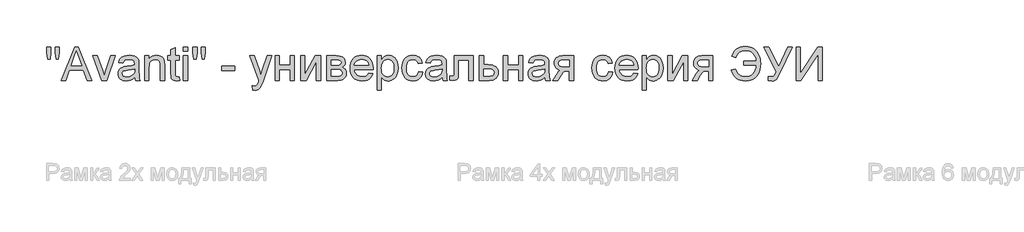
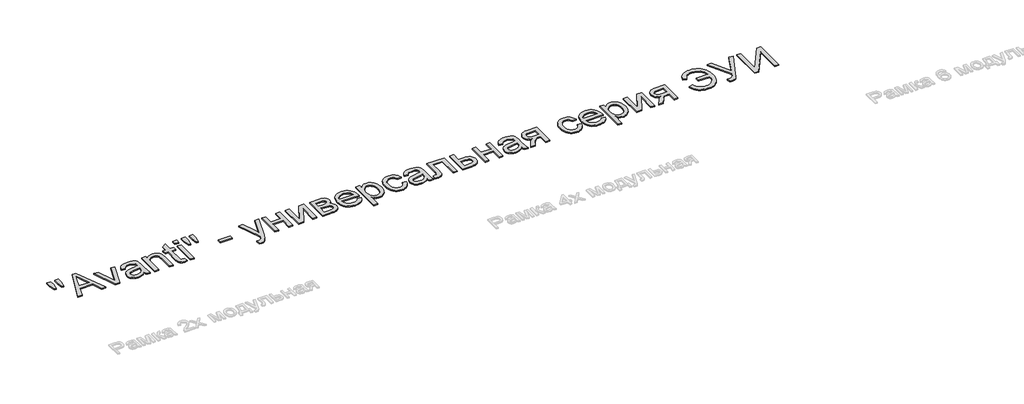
# One storey, part 118 of 168: 1 proxy.
"""IFC4 building model written with IfcOpenShell, lengths in millimetres."""

from ifc_helpers import new_model, si_unit, origin, origin_with_axes, place, context, project, spatial, polyline, outline, extrude, element, save

model = new_model("IFC4")

# Units and contexts
model_context = context("Model", 3, world=origin())
ifc_project = project(units=[si_unit("LENGTHUNIT", "METRE", prefix="MILLI")], contexts=[model_context])

# Site, building, storey
site = spatial("IfcSite", under=ifc_project)
building = spatial("IfcBuilding", under=site)
storey = spatial("IfcBuildingStorey", under=building, Name="Этаж 01", Elevation=0.0)

# Proxy
placement = place(None, origin())
element("IfcBuildingElementProxy", 1, Name="600 мм Arial", ObjectType="600 мм Arial", at=placement, inside=storey, context=model_context, shape_type="SweptSolid", body=[
    extrude(outline(polyline([(32922.197491, -2862.2767394), (32903.8033912, -2745.8788762), (32903.8033912, -2645.6678207), (32979.1456238, -2645.6678207), (32979.1456238, -2745.8788762), (32962.6645104, -2862.2767394), (32922.197491, -2862.2767394)])), origin_with_axes(), (0.0, 0.0, 1.0), 20.0),
    extrude(outline(polyline([(33072.4404978, -2862.2767394), (33054.4878564, -2745.8788762), (33054.4878564, -2645.6678207), (33129.830089, -2645.6678207), (33129.830089, -2745.8788762), (33112.1717533, -2862.2767394), (33072.4404978, -2862.2767394)])), origin_with_axes(), (0.0, 0.0, 1.0), 20.0),
    extrude(outline(polyline([(33163.2337742, -3248.4056816), (33403.828599, -2645.6678207), (33467.987219, -2645.6678207), (33708.5820438, -3248.4056816), (33628.9723801, -3248.4056816), (33559.9577178, -3060.0501), (33311.7109474, -3060.0501), (33242.843438, -3248.4056816), (33163.2337742, -3248.4056816)]), holes=[polyline([(33339.3756735, -2984.7078674), (33532.4401446, -2984.7078674), (33478.1407621, -2836.5249998), (33435.907909, -2721.0100533), (33398.3839455, -2823.5755535), (33339.3756735, -2984.7078674)])]), origin_with_axes(), (0.0, 0.0, 1.0), 20.0),
    extrude(outline(polyline([(33888.2556103, -3248.4056816), (33732.5679499, -2805.770065), (33812.3247665, -2805.770065), (33906.64971, -3070.9394071), (33935.0502001, -3160.1140027), (33962.8620789, -3075.9426022), (34057.7756337, -2805.770065), (34137.5324502, -2805.770065), (33983.7577762, -3248.4056816), (33888.2556103, -3248.4056816)])), origin_with_axes(), (0.0, 0.0, 1.0), 20.0),
    extrude(outline(polyline([(34485.9902761, -3191.8990071), (34449.9930228, -3222.7643065), (34412.9289118, -3242.961028), (34373.9518144, -3254.1078525), (34332.2156021, -3257.8234606), (34298.6693626, -3255.5885775), (34269.2525986, -3248.8839282), (34243.96531, -3237.7095126), (34222.8074967, -3222.0653307), (34206.1010556, -3202.944664), (34194.1678834, -3181.3407938), (34187.00798, -3157.2537202), (34184.6213456, -3130.6834431), (34188.2265892, -3099.4502617), (34199.0423198, -3071.0865599), (34215.7257683, -3046.8063482), (34236.9341653, -3027.8236373), (34261.8581705, -3013.4762394), (34289.6884434, -3003.1019672), (34354.877133, -2991.7712017), (34431.9116228, -2979.8518251), (34485.5488177, -2965.8723093), (34485.9902761, -2949.0968903), (34480.8031399, -2915.4724759), (34474.3192198, -2903.0196704), (34465.2417315, -2893.4731326), (34449.5515644, -2883.9449889), (34430.4400948, -2877.139172), (34381.9532478, -2871.6945185), (34337.0716444, -2875.3181562), (34305.7280984, -2886.1890691), (34284.3541545, -2906.2938202), (34269.3813573, -2937.618972), (34194.0391247, -2928.201193), (34207.1173296, -2886.9984095), (34226.6334695, -2854.6247939), (34254.4085601, -2829.8663357), (34292.2636174, -2811.5090241), (34338.5615665, -2800.1414704), (34391.6653325, -2796.3522859), (34442.5985947, -2799.7000121), (34482.9736437, -2809.7431905), (34513.4158788, -2824.8447464), (34534.5506994, -2843.3676049), (34548.5670034, -2866.2682591), (34557.6536887, -2894.5032022), (34561.3325087, -2960.4276557), (34561.3325087, -3054.1639881), (34565.1584814, -3185.056402), (34570.8238641, -3217.4116235), (34580.1680668, -3248.4056816), (34504.8258342, -3248.4056816), (34492.7593048, -3222.2124835), (34485.9902761, -3191.8990071)]), holes=[polyline([(34485.9902761, -3041.2145419), (34435.3697135, -3053.7593179), (34364.4420648, -3064.3175312), (34299.6212573, -3076.5312134), (34282.7538678, -3084.8821347), (34270.2642741, -3096.3968412), (34262.5387522, -3110.192416), (34259.9635782, -3125.3859424), (34265.5737786, -3147.7899559), (34282.4043799, -3166.1472674), (34310.0875001, -3178.3977379), (34348.2552571, -3182.481228), (34388.7222765, -3177.9746736), (34424.4804065, -3164.4550103), (34453.4695077, -3144.5342002), (34473.629441, -3120.8242056), (34482.5689735, -3096.3968412), (34485.5488177, -3062.5516976), (34485.9902761, -3041.2145419)])]), origin_with_axes(), (0.0, 0.0, 1.0), 20.0),
    extrude(outline(polyline([(34664.9280785, -3248.4056816), (34664.9280785, -2805.770065), (34740.2703111, -2805.770065), (34740.2703111, -2867.5742402), (34766.4451151, -2836.4146352), (34797.8806316, -2814.1577745), (34834.5768606, -2800.803658), (34876.5338021, -2796.3522859), (34913.6714895, -2799.9391353), (34947.68218, -2810.6996837), (34976.0458818, -2827.2911617), (34996.2426034, -2848.3708), (35009.9462077, -2873.8834164), (35018.8305579, -2903.7738285), (35022.8036834, -2976.6144635), (35022.8036834, -3248.4056816), (34947.4614508, -3248.4056816), (34947.4614508, -2986.7680066), (34945.290947, -2947.8093033), (34938.7794357, -2920.1077891), (34926.7680886, -2900.2605554), (34908.0980773, -2884.8646939), (34884.1673535, -2874.9870624), (34856.3738688, -2871.6945185), (34833.4962072, -2873.5431255), (34812.2464235, -2879.0889466), (34792.6245176, -2888.3319817), (34774.6304895, -2901.2722309), (34759.5979114, -2919.3812221), (34748.8603557, -2944.1304834), (34742.4178223, -2975.5200146), (34740.2703111, -3013.5498158), (34740.2703111, -3248.4056816), (34664.9280785, -3248.4056816)])), origin_with_axes(), (0.0, 0.0, 1.0), 20.0),
    extrude(outline(polyline([(35286.5014976, -3185.5714368), (35295.9192766, -3250.6129735), (35239.559755, -3257.8234606), (35203.3969548, -3254.6964637), (35176.4312046, -3245.3154728), (35157.3749173, -3230.8577104), (35144.9405058, -3212.5003988), (35138.0979007, -3180.9729119), (35135.8170323, -3127.0046232), (35135.8170323, -2881.1122976), (35079.3103579, -2881.1122976), (35079.3103579, -2805.770065), (35135.8170323, -2805.770065), (35135.8170323, -2698.2013696), (35211.1592649, -2653.9083774), (35211.1592649, -2805.770065), (35286.5014976, -2805.770065), (35286.5014976, -2881.1122976), (35211.1592649, -2881.1122976), (35211.1592649, -3124.7973312), (35215.1323905, -3163.6456699), (35228.0082603, -3177.4044565), (35238.8791733, -3181.2120352), (35253.6864236, -3182.481228), (35286.5014976, -3185.5714368)])), origin_with_axes(), (0.0, 0.0, 1.0), 20.0),
    extrude(outline(polyline([(35361.8437302, -2721.0100533), (35361.8437302, -2645.6678207), (35437.1859628, -2645.6678207), (35437.1859628, -2721.0100533), (35361.8437302, -2721.0100533)])), origin_with_axes(), (0.0, 0.0, 1.0), 20.0),
    extrude(outline(polyline([(35361.8437302, -3248.4056816), (35361.8437302, -2805.770065), (35437.1859628, -2805.770065), (35437.1859628, -3248.4056816), (35361.8437302, -3248.4056816)])), origin_with_axes(), (0.0, 0.0, 1.0), 20.0),
    extrude(outline(polyline([(35549.7578533, -2862.2767394), (35531.3637535, -2745.8788762), (35531.3637535, -2645.6678207), (35606.7059862, -2645.6678207), (35606.7059862, -2745.8788762), (35590.2248728, -2862.2767394), (35549.7578533, -2862.2767394)])), origin_with_axes(), (0.0, 0.0, 1.0), 20.0),
    extrude(outline(polyline([(35700.0008601, -2862.2767394), (35682.0482188, -2745.8788762), (35682.0482188, -2645.6678207), (35757.3904514, -2645.6678207), (35757.3904514, -2745.8788762), (35739.7321156, -2862.2767394), (35700.0008601, -2862.2767394)])), origin_with_axes(), (0.0, 0.0, 1.0), 20.0),
    extrude(outline(polyline([(36049.3416028, -3069.4678791), (36049.3416028, -2994.1256465), (36284.7860797, -2994.1256465), (36284.7860797, -3069.4678791), (36049.3416028, -3069.4678791)])), origin_with_axes(), (0.0, 0.0, 1.0), 20.0),
    extrude(outline(polyline([(36604.9905683, -3417.9257049), (36595.5727892, -3345.3793755), (36633.8325167, -3352.0012514), (36653.9556618, -3349.9227181), (36669.5906466, -3343.6871183), (36681.7675407, -3333.7359104), (36691.5164135, -3320.5105526), (36712.1178053, -3265.0339478), (36718.0039172, -3246.7870008), (36557.9016729, -2805.770065), (36637.3641838, -2805.770065), (36722.2713483, -3051.5152378), (36751.8490607, -3149.8133069), (36781.4267732, -3062.993156), (36868.6883824, -2805.770065), (36947.5622822, -2805.770065), (36793.4933026, -3259.000683), (36753.4677415, -3357.2987521), (36732.9767144, -3388.6790863), (36709.7633605, -3410.4209122), (36682.7976103, -3423.1128411), (36651.0493941, -3427.343484), (36629.2339918, -3424.9890393), (36604.9905683, -3417.9257049)])), origin_with_axes(), (0.0, 0.0, 1.0), 20.0),
    extrude(outline(polyline([(37009.9550686, -2805.770065), (37085.2973012, -2805.770065), (37085.2973012, -2975.2900883), (37283.0706618, -2975.2900883), (37283.0706618, -2805.770065), (37358.4128944, -2805.770065), (37358.4128944, -3248.4056816), (37283.0706618, -3248.4056816), (37283.0706618, -3050.632321), (37085.2973012, -3050.632321), (37085.2973012, -3248.4056816), (37009.9550686, -3248.4056816), (37009.9550686, -2805.770065)])), origin_with_axes(), (0.0, 0.0, 1.0), 20.0),
    extrude(outline(polyline([(37471.4262433, -2805.770065), (37546.7684759, -2805.770065), (37546.7684759, -3143.3385837), (37731.8866959, -2805.770065), (37829.3018482, -2805.770065), (37829.3018482, -3248.4056816), (37753.9596156, -3248.4056816), (37753.9596156, -2912.897302), (37570.018618, -3248.4056816), (37471.4262433, -3248.4056816), (37471.4262433, -2805.770065)])), origin_with_axes(), (0.0, 0.0, 1.0), 20.0),
    extrude(outline(polyline([(37942.3151971, -2805.770065), (38108.3035534, -2805.770065), (38161.6648368, -2808.2900566), (38199.317559, -2815.8500316), (38227.0190732, -2830.1238531), (38250.5267327, -2852.785384), (38266.5847818, -2882.3079141), (38271.9374648, -2917.1647331), (38268.7001033, -2945.2525234), (38258.9880186, -2969.4775528), (38242.7644226, -2989.9501859), (38219.9925271, -3006.7807871), (38247.8779823, -3022.434166), (38270.6130896, -3047.6156886), (38285.7330396, -3080.3387921), (38290.773023, -3118.6169137), (38286.5883653, -3149.4546219), (38278.0075177, -3176.0432931), (38265.0304804, -3198.3829273), (38247.6572531, -3216.4735244), (38225.8602449, -3230.4438432), (38199.6118646, -3240.4226423), (38168.9121121, -3246.4099217), (38133.7609874, -3248.4056816), (37942.3151971, -3248.4056816), (37942.3151971, -2805.770065)]), holes=[polyline([(38017.6574297, -2975.2900883), (38092.1167456, -2975.2900883), (38153.5530388, -2971.4641156), (38169.3719646, -2965.7251565), (38183.4250568, -2956.1602246), (38193.3026883, -2943.505084), (38196.5952322, -2928.4954986), (38195.1512954, -2916.2542252), (38190.8194849, -2906.0179087), (38183.5998007, -2897.786549), (38173.4922429, -2891.5601462), (38142.1854851, -2883.7242598), (38094.4711903, -2881.1122976), (38017.6574297, -2881.1122976), (38017.6574297, -2975.2900883)]), polyline([(38017.6574297, -3173.063449), (38110.0693869, -3173.063449), (38160.4324321, -3169.6605405), (38192.0334955, -3159.4518151), (38201.8283536, -3151.408995), (38208.9928554, -3140.8921685), (38215.4307904, -3112.4364962), (38212.2118229, -3093.5825439), (38202.5549205, -3076.1633314), (38187.7292761, -3062.5333035), (38169.0040826, -3055.0469049), (38102.711747, -3050.632321), (38017.6574297, -3050.632321), (38017.6574297, -3173.063449)])]), origin_with_axes(), (0.0, 0.0, 1.0), 20.0),
    extrude(outline(polyline([(38694.8546065, -3116.5567745), (38768.7253111, -3125.9745536), (38757.3991442, -3155.561463), (38742.1090488, -3181.6350994), (38722.8550248, -3204.1954628), (38699.6370724, -3223.2425531), (38672.6943148, -3238.3717002), (38642.2658753, -3249.1782338), (38608.3517538, -3255.6621539), (38570.9519505, -3257.8234606), (38524.203346, -3254.0940569), (38482.5499071, -3242.9058457), (38445.9916338, -3224.2588271), (38414.5285261, -3198.153001), (38389.2274419, -3165.3149344), (38371.1552389, -3126.4711943), (38360.3119171, -3081.6217805), (38356.6974765, -3030.7666932), (38360.3487053, -2978.1871591), (38371.3023917, -2931.8432247), (38389.5585357, -2891.7348902), (38415.1171373, -2857.8621555), (38446.4974715, -2830.9515875), (38482.2188133, -2811.7297533), (38522.2811625, -2800.1966527), (38566.6845194, -2796.3522859), (38609.6577349, -2800.1874557), (38648.5198692, -2811.6929651), (38683.2709221, -2830.8688141), (38713.9108938, -2857.7150027), (38738.922271, -2891.514161), (38756.7875404, -2931.5489191), (38767.506702, -2977.8192771), (38771.0797559, -3030.3252348), (38770.6382975, -3050.632321), (38432.0397091, -3050.632321), (38436.4037093, -3080.697477), (38445.0811258, -3107.0286308), (38458.0719588, -3129.6257824), (38475.3762081, -3148.4889317), (38496.0373807, -3163.3605613), (38519.0989833, -3173.9831539), (38544.5610159, -3180.3567095), (38572.4234785, -3182.481228), (38612.522616, -3178.5448907), (38646.2941831, -3166.7358786), (38673.7381799, -3146.3184279), (38694.8546065, -3116.5567745)]), holes=[polyline([(38432.0397091, -2975.2900883), (38695.7375233, -2975.2900883), (38685.547192, -2935.4852565), (38676.7824035, -2919.8318776), (38665.5711997, -2907.01119), (38645.0249902, -2891.5601462), (38621.6460894, -2880.5236864), (38595.4344973, -2873.9018105), (38566.3902138, -2871.6945185), (38539.8981116, -2873.4557536), (38515.6041043, -2878.7394587), (38493.508192, -2887.545634), (38473.6103746, -2899.8742793), (38456.9131305, -2915.1551777), (38444.4189383, -2932.818112), (38436.1277978, -2952.8630822), (38432.0397091, -2975.2900883)])]), origin_with_axes(), (0.0, 0.0, 1.0), 20.0),
    extrude(outline(polyline([(38846.4219885, -3417.9257049), (38846.4219885, -2805.770065), (38921.7642211, -2805.770065), (38921.7642211, -2879.6407696), (38946.3387384, -2843.202058), (38973.8563116, -2817.1744068), (39005.9356216, -2801.5578161), (39044.1953491, -2796.3522859), (39070.4713206, -2798.1733018), (39095.1470054, -2803.6363494), (39118.2224036, -2812.7414288), (39139.697515, -2825.4885399), (39159.1032903, -2841.546589), (39175.9706798, -2860.5844823), (39190.2996835, -2882.6022197), (39202.0903014, -2907.5998012), (39217.872439, -2963.1131943), (39223.1331515, -3023.7033589), (39217.1918573, -3088.1378904), (39209.7652395, -3117.8029748), (39199.3679747, -3145.7666049), (39186.1426169, -3171.2976154), (39170.2317206, -3193.6648407), (39151.6352858, -3212.8682808), (39130.3533124, -3228.9079358), (39107.4296655, -3241.5584779), (39083.9082105, -3250.5945794), (39059.7889472, -3256.0162403), (39035.0718756, -3257.8234606), (39000.4357858, -3252.9858124), (38969.5153041, -3238.4728677), (38943.0461945, -3216.5654949), (38921.7642211, -3189.5445623), (38921.7642211, -3417.9257049), (38846.4219885, -3417.9257049)]), holes=[polyline([(38921.7642211, -3030.6195404), (38923.8013676, -3066.9294933), (38929.9128073, -3098.1626747), (38940.09854, -3124.3190846), (38954.3585659, -3145.3987229), (38971.5248595, -3161.6223189), (38990.4293955, -3173.2106018), (39011.072174, -3180.1635715), (39033.4531948, -3182.481228), (39056.1561125, -3180.080798), (39077.17597, -3172.879508), (39096.5127673, -3160.8773579), (39114.1665046, -3144.0743477), (39128.8771859, -3122.2313543), (39139.3848153, -3095.1092542), (39145.689393, -3062.7080475), (39147.7909189, -3025.0277341), (39145.7399768, -2989.0304809), (39139.5871504, -2957.8524818), (39129.3324398, -2931.4937368), (39114.975845, -2909.954246), (39097.7681646, -2893.2156152), (39078.9601976, -2881.2594504), (39058.551944, -2874.0857515), (39036.5434036, -2871.6945185), (39014.6038411, -2874.2375028), (38993.9610626, -2881.8664557), (38974.6150682, -2894.5813771), (38956.5658578, -2912.3822672), (38941.3401418, -2935.0300025), (38930.4646303, -2962.2854598), (38923.9393234, -2994.1486391), (38921.7642211, -3030.6195404)])]), origin_with_axes(), (0.0, 0.0, 1.0), 20.0),
    extrude(outline(polyline([(39590.4265355, -3088.3034373), (39665.7687681, -3097.7212163), (39657.5741967, -3133.2724127), (39644.7627062, -3164.7309218), (39627.3342967, -3192.0967437), (39605.2889681, -3215.3698784), (39579.5556226, -3233.9433206), (39551.063162, -3247.2100651), (39519.8115866, -3255.1701118), (39485.8008961, -3257.8234606), (39443.5450504, -3254.1216481), (39405.6578035, -3243.0162103), (39372.1391552, -3224.5071475), (39342.9891056, -3198.5944594), (39319.3940741, -3165.7655899), (39302.5404802, -3126.5079825), (39292.4283239, -3080.8216372), (39289.0576051, -3028.706554), (39294.8149583, -2961.6600604), (39302.0116498, -2931.4891383), (39312.087018, -2903.5530993), (39325.1100406, -2878.4129634), (39341.1496956, -2856.6297508), (39360.2059829, -2838.2034614), (39382.2789027, -2823.1340951), (39406.3705748, -2811.4170536), (39431.4831195, -2803.0477382), (39457.6165367, -2798.026149), (39484.7708265, -2796.3522859), (39518.1975043, -2798.6515484), (39548.4328058, -2805.5493358), (39575.476731, -2817.0456481), (39599.3292798, -2833.1404854), (39619.5857822, -2853.4659656), (39635.8415678, -2877.6542068), (39648.0966368, -2905.705209), (39656.3509891, -2937.618972), (39581.0087565, -2947.0367511), (39567.3419403, -2914.1664949), (39546.0599669, -2890.6036531), (39518.3400586, -2876.4218021), (39485.3594377, -2871.6945185), (39459.7594494, -2874.0213721), (39436.6702556, -2881.001933), (39416.0918565, -2892.6362011), (39398.0242521, -2908.9241764), (39383.3135708, -2930.242938), (39372.8059413, -2956.969565), (39366.5013636, -2989.1040573), (39364.3998377, -3026.6464149), (39366.4553783, -3064.7543911), (39372.6220003, -3097.2613639), (39382.8997035, -3124.1673333), (39397.2884881, -3145.4722993), (39414.9974076, -3161.6637056), (39435.2355159, -3173.2289959), (39458.0028128, -3180.16817), (39483.2992985, -3182.481228), (39522.3131841, -3176.7054807), (39539.1851721, -3169.4857966), (39554.3005236, -3159.3782387), (39567.2361743, -3146.2724427), (39577.5690598, -3130.0580437), (39585.2991802, -3110.7350419), (39590.4265355, -3088.3034373)])), origin_with_axes(), (0.0, 0.0, 1.0), 20.0),
    extrude(outline(polyline([(40014.226594, -3191.8990071), (39978.2293407, -3222.7643065), (39941.1652297, -3242.961028), (39902.1881323, -3254.1078525), (39860.45192, -3257.8234606), (39826.9056806, -3255.5885775), (39797.4889165, -3248.8839282), (39772.2016279, -3237.7095126), (39751.0438146, -3222.0653307), (39734.3373735, -3202.944664), (39722.4042013, -3181.3407938), (39715.244298, -3157.2537202), (39712.8576635, -3130.6834431), (39716.4629071, -3099.4502617), (39727.2786377, -3071.0865599), (39743.9620862, -3046.8063482), (39765.1704832, -3027.8236373), (39790.0944884, -3013.4762394), (39817.9247613, -3003.1019672), (39883.1134509, -2991.7712017), (39960.1479407, -2979.8518251), (40013.7851356, -2965.8723093), (40014.226594, -2949.0968903), (40009.0394578, -2915.4724759), (40002.5555377, -2903.0196704), (39993.4780494, -2893.4731326), (39977.7878824, -2883.9449889), (39958.6764127, -2877.139172), (39910.1895657, -2871.6945185), (39865.3079623, -2875.3181562), (39833.9644163, -2886.1890691), (39812.5904724, -2906.2938202), (39797.6176752, -2937.618972), (39722.2754426, -2928.201193), (39735.3536475, -2886.9984095), (39754.8697874, -2854.6247939), (39782.644878, -2829.8663357), (39820.4999353, -2811.5090241), (39866.7978844, -2800.1414704), (39919.9016504, -2796.3522859), (39970.8349126, -2799.7000121), (40011.2099616, -2809.7431905), (40041.6521967, -2824.8447464), (40062.7870173, -2843.3676049), (40076.8033214, -2866.2682591), (40085.8900066, -2894.5032022), (40089.5688266, -2960.4276557), (40089.5688266, -3054.1639881), (40093.3947993, -3185.056402), (40099.0601821, -3217.4116235), (40108.4043847, -3248.4056816), (40033.0621521, -3248.4056816), (40020.9956227, -3222.2124835), (40014.226594, -3191.8990071)]), holes=[polyline([(40014.226594, -3041.2145419), (39963.6060314, -3053.7593179), (39892.6783828, -3064.3175312), (39827.8575752, -3076.5312134), (39810.9901857, -3084.8821347), (39798.500592, -3096.3968412), (39790.7750701, -3110.192416), (39788.1998961, -3125.3859424), (39793.8100966, -3147.7899559), (39810.6406978, -3166.1472674), (39838.323818, -3178.3977379), (39876.491575, -3182.481228), (39916.9585944, -3177.9746736), (39952.7167244, -3164.4550103), (39981.7058256, -3144.5342002), (40001.8657589, -3120.8242056), (40010.8052914, -3096.3968412), (40013.7851356, -3062.5516976), (40014.226594, -3041.2145419)])]), origin_with_axes(), (0.0, 0.0, 1.0), 20.0),
    extrude(outline(polyline([(40230.8355127, -2805.770065), (40569.8755595, -2805.770065), (40569.8755595, -3247.9642232), (40494.5333269, -3247.9642232), (40494.5333269, -2881.1122976), (40306.1777453, -2881.1122976), (40306.1777453, -3092.2765628), (40304.9085525, -3153.5657032), (40301.1009738, -3189.6917151), (40291.5912242, -3211.7462407), (40273.2155186, -3230.8209222), (40245.3300633, -3244.0094917), (40207.291065, -3248.4056816), (40146.075501, -3244.5797088), (40146.075501, -3173.063449), (40179.7734918, -3173.063449), (40200.2093366, -3171.9046207), (40213.8393646, -3168.4281358), (40222.3558327, -3162.4316593), (40227.4509984, -3153.712856), (40230.8355127, -3088.0091317), (40230.8355127, -2805.770065)])), origin_with_axes(), (0.0, 0.0, 1.0), 20.0),
    extrude(outline(polyline([(40682.8889084, -2805.770065), (40758.231141, -2805.770065), (40758.231141, -2965.8723093), (40845.0512919, -2965.8723093), (40885.1320353, -2968.2313526), (40920.3199481, -2975.3084824), (40950.6150304, -2987.1036989), (40976.0172822, -3003.617002), (40996.1036391, -3024.2781745), (41010.4510369, -3048.5169995), (41019.0594756, -3076.3334769), (41021.9289552, -3107.7276066), (41019.4871384, -3135.737222), (41012.1616882, -3161.640713), (40999.9526045, -3185.4380796), (40982.8598873, -3207.1293217), (40960.3960929, -3225.1877291), (40932.0737778, -3238.0865916), (40897.892942, -3245.8259091), (40857.8535853, -3248.4056816), (40682.8889084, -3248.4056816), (40682.8889084, -2805.770065)]), holes=[polyline([(40758.231141, -3173.063449), (40828.5701785, -3173.063449), (40883.1454725, -3169.1087175), (40903.5767188, -3164.1653032), (40919.4370313, -3157.2445232), (40931.3150212, -3148.2268158), (40939.7992997, -3136.9926193), (40944.8898668, -3123.5419339), (40946.5867225, -3107.8747594), (40941.5651333, -3083.2634539), (40926.5003656, -3061.521628), (40913.4083651, -3052.6372778), (40894.2187205, -3046.2913134), (40837.5464992, -3041.2145419), (40758.231141, -3041.2145419), (40758.231141, -3173.063449)])]), origin_with_axes(), (0.0, 0.0, 1.0), 20.0),
    extrude(outline(polyline([(41116.1067459, -2805.770065), (41191.4489785, -2805.770065), (41191.4489785, -2975.2900883), (41389.2223391, -2975.2900883), (41389.2223391, -2805.770065), (41464.5645718, -2805.770065), (41464.5645718, -3248.4056816), (41389.2223391, -3248.4056816), (41389.2223391, -3050.632321), (41191.4489785, -3050.632321), (41191.4489785, -3248.4056816), (41116.1067459, -3248.4056816), (41116.1067459, -2805.770065)])), origin_with_axes(), (0.0, 0.0, 1.0), 20.0),
    extrude(outline(polyline([(41860.111293, -3191.8990071), (41824.1140397, -3222.7643065), (41787.0499287, -3242.961028), (41748.0728313, -3254.1078525), (41706.336619, -3257.8234606), (41672.7903796, -3255.5885775), (41643.3736155, -3248.8839282), (41618.0863269, -3237.7095126), (41596.9285136, -3222.0653307), (41580.2220725, -3202.944664), (41568.2889003, -3181.3407938), (41561.128997, -3157.2537202), (41558.7423625, -3130.6834431), (41562.3476061, -3099.4502617), (41573.1633367, -3071.0865599), (41589.8467852, -3046.8063482), (41611.0551822, -3027.8236373), (41635.9791874, -3013.4762394), (41663.8094603, -3003.1019672), (41728.9981499, -2991.7712017), (41806.0326397, -2979.8518251), (41859.6698346, -2965.8723093), (41860.111293, -2949.0968903), (41854.9241568, -2915.4724759), (41848.4402367, -2903.0196704), (41839.3627484, -2893.4731326), (41823.6725813, -2883.9449889), (41804.5611117, -2877.139172), (41756.0742647, -2871.6945185), (41711.1926613, -2875.3181562), (41679.8491153, -2886.1890691), (41658.4751714, -2906.2938202), (41643.5023742, -2937.618972), (41568.1601416, -2928.201193), (41581.2383465, -2886.9984095), (41600.7544864, -2854.6247939), (41628.529577, -2829.8663357), (41666.3846343, -2811.5090241), (41712.6825834, -2800.1414704), (41765.7863494, -2796.3522859), (41816.7196116, -2799.7000121), (41857.0946606, -2809.7431905), (41887.5368957, -2824.8447464), (41908.6717163, -2843.3676049), (41922.6880204, -2866.2682591), (41931.7747056, -2894.5032022), (41935.4535256, -2960.4276557), (41935.4535256, -3054.1639881), (41939.2794983, -3185.056402), (41944.9448811, -3217.4116235), (41954.2890837, -3248.4056816), (41878.9468511, -3248.4056816), (41866.8803217, -3222.2124835), (41860.111293, -3191.8990071)]), holes=[polyline([(41860.111293, -3041.2145419), (41809.4907304, -3053.7593179), (41738.5630818, -3064.3175312), (41673.7422742, -3076.5312134), (41656.8748847, -3084.8821347), (41644.385291, -3096.3968412), (41636.6597691, -3110.192416), (41634.0845951, -3125.3859424), (41639.6947956, -3147.7899559), (41656.5253968, -3166.1472674), (41684.208517, -3178.3977379), (41722.376274, -3182.481228), (41762.8432934, -3177.9746736), (41798.6014234, -3164.4550103), (41827.5905246, -3144.5342002), (41847.7504579, -3120.8242056), (41856.6899904, -3096.3968412), (41859.6698346, -3062.5516976), (41860.111293, -3041.2145419)])]), origin_with_axes(), (0.0, 0.0, 1.0), 20.0),
    extrude(outline(polyline([(42378.0891422, -2805.770065), (42378.0891422, -3248.4056816), (42302.7469096, -3248.4056816), (42302.7469096, -3078.8856582), (42261.6912789, -3078.8856582), (42228.9497813, -3081.2768912), (42205.7732156, -3088.4505901), (42183.4427785, -3109.3094992), (42153.2396667, -3152.7563628), (42093.2013251, -3248.4056816), (42006.0868687, -3248.4056816), (42081.7234069, -3127.4460816), (42115.127092, -3084.0360061), (42130.8356532, -3071.3808655), (42145.8820268, -3064.7589896), (42118.2173008, -3058.6429514), (42094.3785475, -3048.976852), (42074.365767, -3035.7606913), (42058.1789592, -3018.9944694), (42045.6893654, -2999.754241), (42036.7682271, -2979.1160611), (42031.415544, -2957.0799296), (42029.6313163, -2933.6458465), (42032.0685346, -2906.5145494), (42039.3801892, -2882.0687908), (42051.5662803, -2860.3085708), (42068.6268078, -2841.2338893), (42090.3042544, -2825.7184662), (42116.3411026, -2814.6360211), (42146.7373525, -2807.986554), (42181.493004, -2805.770065), (42378.0891422, -2805.770065)]), holes=[polyline([(42302.7469096, -2881.1122976), (42203.4187709, -2881.1122976), (42152.1176266, -2885.4716992), (42134.7857861, -2890.9209513), (42122.9997667, -2898.5499042), (42109.4801034, -2917.4774328), (42104.973549, -2939.3848056), (42106.6336165, -2954.8404479), (42111.613819, -2968.0979953), (42119.9141565, -2979.1574478), (42131.534629, -2988.0188054), (42147.3765474, -2994.8108267), (42168.3412226, -2999.6622705), (42225.6388434, -3003.5434256), (42302.7469096, -3003.5434256), (42302.7469096, -2881.1122976)])]), origin_with_axes(), (0.0, 0.0, 1.0), 20.0),
    extrude(outline(polyline([(43009.0803403, -3088.3034373), (43084.4225729, -3097.7212163), (43076.2280015, -3133.2724127), (43063.416511, -3164.7309218), (43045.9881015, -3192.0967437), (43023.9427729, -3215.3698784), (42998.2094274, -3233.9433206), (42969.7169668, -3247.2100651), (42938.4653913, -3255.1701118), (42904.4547009, -3257.8234606), (42862.1988552, -3254.1216481), (42824.3116082, -3243.0162103), (42790.7929599, -3224.5071475), (42761.6429104, -3198.5944594), (42738.0478789, -3165.7655899), (42721.194285, -3126.5079825), (42711.0821286, -3080.8216372), (42707.7114099, -3028.706554), (42713.4687631, -2961.6600604), (42720.6654546, -2931.4891383), (42730.7408228, -2903.5530993), (42743.7638454, -2878.4129634), (42759.8035004, -2856.6297508), (42778.8597877, -2838.2034614), (42800.9327074, -2823.1340951), (42825.0243796, -2811.4170536), (42850.1369243, -2803.0477382), (42876.2703415, -2798.026149), (42903.4246313, -2796.3522859), (42936.8513091, -2798.6515484), (42967.0866106, -2805.5493358), (42994.1305357, -2817.0456481), (43017.9830846, -2833.1404854), (43038.239587, -2853.4659656), (43054.4953726, -2877.6542068), (43066.7504416, -2905.705209), (43075.0047938, -2937.618972), (42999.6625612, -2947.0367511), (42985.9957451, -2914.1664949), (42964.7137717, -2890.6036531), (42936.9938634, -2876.4218021), (42904.0132425, -2871.6945185), (42878.4132541, -2874.0213721), (42855.3240604, -2881.001933), (42834.7456613, -2892.6362011), (42816.6780568, -2908.9241764), (42801.9673755, -2930.242938), (42791.4597461, -2956.969565), (42785.1551684, -2989.1040573), (42783.0536425, -3026.6464149), (42785.1091831, -3064.7543911), (42791.2758051, -3097.2613639), (42801.5535083, -3124.1673333), (42815.9422928, -3145.4722993), (42833.6512124, -3161.6637056), (42853.8893206, -3173.2289959), (42876.6566176, -3180.16817), (42901.9531033, -3182.481228), (42940.9669889, -3176.7054807), (42957.8389769, -3169.4857966), (42972.9543284, -3159.3782387), (42985.889979, -3146.2724427), (42996.2228646, -3130.0580437), (43003.952985, -3110.7350419), (43009.0803403, -3088.3034373)])), origin_with_axes(), (0.0, 0.0, 1.0), 20.0),
    extrude(outline(polyline([(43460.2508192, -3116.5567745), (43534.1215238, -3125.9745536), (43522.7953569, -3155.561463), (43507.5052615, -3181.6350994), (43488.2512376, -3204.1954628), (43465.0332851, -3223.2425531), (43438.0905275, -3238.3717002), (43407.662088, -3249.1782338), (43373.7479666, -3255.6621539), (43336.3481632, -3257.8234606), (43289.5995587, -3254.0940569), (43247.9461198, -3242.9058457), (43211.3878465, -3224.2588271), (43179.9247389, -3198.153001), (43154.6236547, -3165.3149344), (43136.5514516, -3126.4711943), (43125.7081298, -3081.6217805), (43122.0936892, -3030.7666932), (43125.744918, -2978.1871591), (43136.6986044, -2931.8432247), (43154.9547484, -2891.7348902), (43180.5133501, -2857.8621555), (43211.8936842, -2830.9515875), (43247.615026, -2811.7297533), (43287.6773753, -2800.1966527), (43332.0807321, -2796.3522859), (43375.0539476, -2800.1874557), (43413.9160819, -2811.6929651), (43448.6671349, -2830.8688141), (43479.3071065, -2857.7150027), (43504.3184837, -2891.514161), (43522.1837531, -2931.5489191), (43532.9029147, -2977.8192771), (43536.4759686, -3030.3252348), (43536.0345102, -3050.632321), (43197.4359218, -3050.632321), (43201.799922, -3080.697477), (43210.4773386, -3107.0286308), (43223.4681715, -3129.6257824), (43240.7724209, -3148.4889317), (43261.4335934, -3163.3605613), (43284.495196, -3173.9831539), (43309.9572286, -3180.3567095), (43337.8196912, -3182.481228), (43377.9188287, -3178.5448907), (43411.6903958, -3166.7358786), (43439.1343927, -3146.3184279), (43460.2508192, -3116.5567745)]), holes=[polyline([(43197.4359218, -2975.2900883), (43461.133736, -2975.2900883), (43450.9434047, -2935.4852565), (43442.1786162, -2919.8318776), (43430.9674124, -2907.01119), (43410.4212029, -2891.5601462), (43387.0423022, -2880.5236864), (43360.83071, -2873.9018105), (43331.7864265, -2871.6945185), (43305.2943243, -2873.4557536), (43281.000317, -2878.7394587), (43258.9044047, -2887.545634), (43239.0065873, -2899.8742793), (43222.3093432, -2915.1551777), (43209.815151, -2932.818112), (43201.5240105, -2952.8630822), (43197.4359218, -2975.2900883)])]), origin_with_axes(), (0.0, 0.0, 1.0), 20.0),
    extrude(outline(polyline([(43611.8182012, -3417.9257049), (43611.8182012, -2805.770065), (43687.1604338, -2805.770065), (43687.1604338, -2879.6407696), (43711.7349511, -2843.202058), (43739.2525243, -2817.1744068), (43771.3318343, -2801.5578161), (43809.5915618, -2796.3522859), (43835.8675333, -2798.1733018), (43860.5432181, -2803.6363494), (43883.6186163, -2812.7414288), (43905.0937278, -2825.4885399), (43924.499503, -2841.546589), (43941.3668925, -2860.5844823), (43955.6958962, -2882.6022197), (43967.4865141, -2907.5998012), (43983.2686517, -2963.1131943), (43988.5293643, -3023.7033589), (43982.58807, -3088.1378904), (43975.1614523, -3117.8029748), (43964.7641874, -3145.7666049), (43951.5388297, -3171.2976154), (43935.6279334, -3193.6648407), (43917.0314985, -3212.8682808), (43895.7495251, -3228.9079358), (43872.8258783, -3241.5584779), (43849.3044232, -3250.5945794), (43825.1851599, -3256.0162403), (43800.4680883, -3257.8234606), (43765.8319985, -3252.9858124), (43734.9115168, -3238.4728677), (43708.4424072, -3216.5654949), (43687.1604338, -3189.5445623), (43687.1604338, -3417.9257049), (43611.8182012, -3417.9257049)]), holes=[polyline([(43687.1604338, -3030.6195404), (43689.1975804, -3066.9294933), (43695.30902, -3098.1626747), (43705.4947528, -3124.3190846), (43719.7547786, -3145.3987229), (43736.9210722, -3161.6223189), (43755.8256082, -3173.2106018), (43776.4683867, -3180.1635715), (43798.8494076, -3182.481228), (43821.5523252, -3180.080798), (43842.5721827, -3172.879508), (43861.9089801, -3160.8773579), (43879.5627173, -3144.0743477), (43894.2733986, -3122.2313543), (43904.7810281, -3095.1092542), (43911.0856058, -3062.7080475), (43913.1871317, -3025.0277341), (43911.1361895, -2989.0304809), (43904.9833632, -2957.8524818), (43894.7286525, -2931.4937368), (43880.3720577, -2909.954246), (43863.1643774, -2893.2156152), (43844.3564104, -2881.2594504), (43823.9481567, -2874.0857515), (43801.9396163, -2871.6945185), (43780.0000538, -2874.2375028), (43759.3572754, -2881.8664557), (43740.011281, -2894.5813771), (43721.9620706, -2912.3822672), (43706.7363545, -2935.0300025), (43695.860843, -2962.2854598), (43689.3355361, -2994.1486391), (43687.1604338, -3030.6195404)])]), origin_with_axes(), (0.0, 0.0, 1.0), 20.0),
    extrude(outline(polyline([(44073.289376, -2805.770065), (44148.6316086, -2805.770065), (44148.6316086, -3143.3385837), (44333.7498285, -2805.770065), (44431.1649809, -2805.770065), (44431.1649809, -3248.4056816), (44355.8227483, -3248.4056816), (44355.8227483, -2912.897302), (44171.8817507, -3248.4056816), (44073.289376, -3248.4056816), (44073.289376, -2805.770065)])), origin_with_axes(), (0.0, 0.0, 1.0), 20.0),
    extrude(outline(polyline([(44883.2183765, -2805.770065), (44883.2183765, -3248.4056816), (44807.8761439, -3248.4056816), (44807.8761439, -3078.8856582), (44766.8205133, -3078.8856582), (44734.0790157, -3081.2768912), (44710.90245, -3088.4505901), (44688.5720129, -3109.3094992), (44658.3689011, -3152.7563628), (44598.3305595, -3248.4056816), (44511.216103, -3248.4056816), (44586.8526412, -3127.4460816), (44620.2563264, -3084.0360061), (44635.9648876, -3071.3808655), (44651.0112612, -3064.7589896), (44623.3465351, -3058.6429514), (44599.5077819, -3048.976852), (44579.4950013, -3035.7606913), (44563.3081935, -3018.9944694), (44550.8185998, -2999.754241), (44541.8974614, -2979.1160611), (44536.5447784, -2957.0799296), (44534.7605507, -2933.6458465), (44537.1977689, -2906.5145494), (44544.5094236, -2882.0687908), (44556.6955147, -2860.3085708), (44573.7560422, -2841.2338893), (44595.4334888, -2825.7184662), (44621.470337, -2814.6360211), (44651.8665868, -2807.986554), (44686.6222383, -2805.770065), (44883.2183765, -2805.770065)]), holes=[polyline([(44807.8761439, -2881.1122976), (44708.5480052, -2881.1122976), (44657.246861, -2885.4716992), (44639.9150205, -2890.9209513), (44628.1290011, -2898.5499042), (44614.6093378, -2917.4774328), (44610.1027833, -2939.3848056), (44611.7628508, -2954.8404479), (44616.7430533, -2968.0979953), (44625.0433908, -2979.1574478), (44636.6638634, -2988.0188054), (44652.5057818, -2994.8108267), (44673.470457, -2999.6622705), (44730.7680777, -3003.5434256), (44807.8761439, -3003.5434256), (44807.8761439, -2881.1122976)])]), origin_with_axes(), (0.0, 0.0, 1.0), 20.0),
    extrude(outline(polyline([(45438.8673421, -2899.9478557), (45664.8940399, -2899.9478557), (45659.4953716, -2858.8508384), (45648.3025619, -2822.2327843), (45631.3156108, -2790.0936935), (45608.5345182, -2762.4335659), (45580.4099397, -2740.1905008), (45547.3925306, -2724.3025971), (45509.482291, -2714.7698549), (45466.6792209, -2711.5922742), (45434.7125748, -2713.5052606), (45405.8407359, -2719.2442197), (45380.0637044, -2728.8091516), (45357.3814801, -2742.2000562), (45337.7940631, -2759.4169336), (45321.3014534, -2780.4597837), (45307.903651, -2805.3286066), (45297.6006559, -2834.0234022), (45222.2584233, -2815.187844), (45235.8332689, -2775.4014063), (45254.4848861, -2740.2134934), (45278.2132748, -2709.6241055), (45307.018435, -2683.6332426), (45340.2657703, -2662.9030921), (45377.3206843, -2648.0958418), (45418.1831769, -2639.2114917), (45462.8532481, -2636.2500416), (45505.4631802, -2638.9677698), (45545.0012977, -2647.1209546), (45581.4676004, -2660.7095957), (45614.8620885, -2679.7336934), (45644.6651287, -2702.9838355), (45670.3570875, -2729.25061), (45691.9379651, -2758.5340168), (45709.4077613, -2790.834056), (45722.895235, -2825.5391237), (45732.5291447, -2862.0376161), (45738.3094906, -2900.3295333), (45740.2362725, -2940.4148752), (45737.8910248, -3004.8540052), (45726.2935449, -3063.9680433), (45705.4438328, -3117.7569895), (45675.3418886, -3166.2208438), (45656.8397235, -3187.6902072), (45636.0612885, -3206.2969887), (45613.0065837, -3222.0411885), (45587.6756091, -3234.9228064), (45560.0683646, -3244.9418427), (45530.1848503, -3252.0982971), (45463.5890121, -3257.8234606), (45416.2150082, -3254.7332519), (45373.4211351, -3245.4626256), (45335.2073929, -3230.0115818), (45301.5737815, -3208.3801205), (45272.5203009, -3180.5682417), (45248.0469512, -3146.5759453), (45228.1537323, -3106.4032314), (45212.8406442, -3060.0501), (45288.1828768, -3041.2145419), (45299.2009426, -3074.3239215), (45313.6403109, -3103.0187171), (45331.5009818, -3127.2989288), (45352.7829552, -3147.1645565), (45377.4862312, -3162.6156003), (45405.6108097, -3173.6520601), (45437.1566908, -3180.2739361), (45472.1238744, -3182.481228), (45511.5424302, -3179.0139402), (45547.2453778, -3168.6120768), (45579.2327173, -3151.2756378), (45607.5044486, -3127.0046232), (45630.9017435, -3096.7187379), (45648.2657737, -3061.337687), (45659.5965392, -3020.8614705), (45664.8940399, -2975.2900883), (45438.8673421, -2975.2900883), (45438.8673421, -2899.9478557)])), origin_with_axes(), (0.0, 0.0, 1.0), 20.0),
    extrude(outline(polyline([(45801.4518365, -2645.6678207), (45884.887473, -2645.6678207), (46065.1496506, -3002.6605088), (46227.3120341, -2645.6678207), (46310.0119066, -2645.6678207), (46081.1893056, -3115.2323993), (46046.6451863, -3188.1466108), (46018.943672, -3230.600193), (46005.4883881, -3242.5103726), (45989.4027478, -3251.0176437), (45970.6867513, -3256.1220064), (45949.3403986, -3257.8234606), (45918.5486756, -3255.4690159), (45881.5029586, -3248.4056816), (45881.5029586, -3182.481228), (45940.8055363, -3182.481228), (45964.533925, -3178.2873733), (45984.8042229, -3165.7058091), (46004.2651804, -3138.225024), (46025.565548, -3089.3335069), (45801.4518365, -2645.6678207)])), origin_with_axes(), (0.0, 0.0, 1.0), 20.0),
    extrude(outline(polyline([(46380.6452497, -2645.6678207), (46455.9874823, -2645.6678207), (46455.9874823, -3123.0314976), (46771.4830814, -2645.6678207), (46851.5342035, -2645.6678207), (46851.5342035, -3248.4056816), (46776.1919709, -3248.4056816), (46776.1919709, -2772.3663798), (46461.4321358, -3248.4056816), (46380.6452497, -3248.4056816), (46380.6452497, -2645.6678207)])), origin_with_axes(), (0.0, 0.0, 1.0), 20.0),
])

save(model, "model.ifc")
